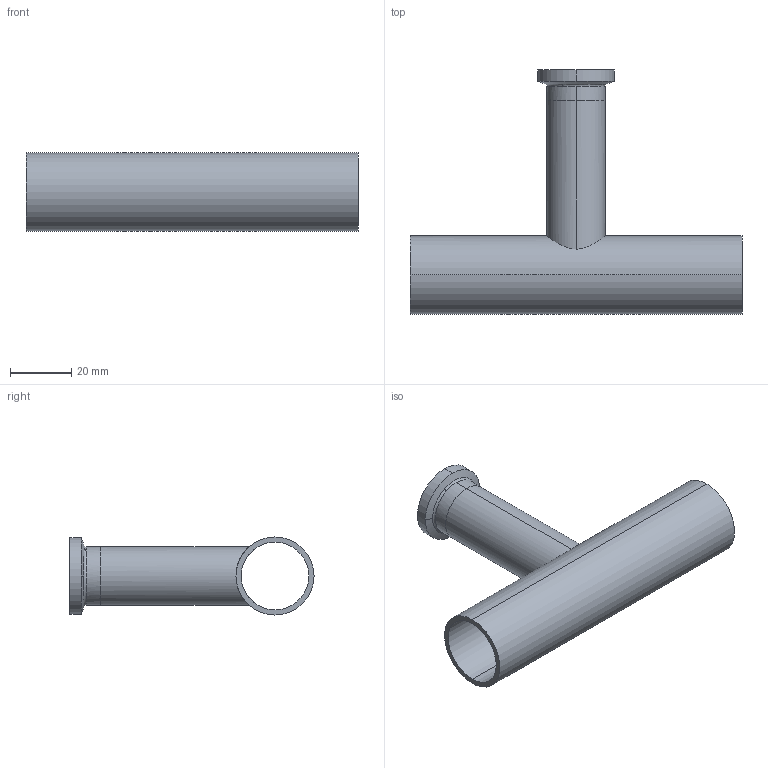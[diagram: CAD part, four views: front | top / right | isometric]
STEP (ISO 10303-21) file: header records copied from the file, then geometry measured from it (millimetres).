
FILE_DESCRIPTION (( 'STEP AP214' ), '1' );
FILE_NAME ('TE7RWWC6L1.0x.75-...STEP', '2016-05-23T07:51:48', ( 'eran' ), ( '' ), 'SwSTEP 2.0', 'SolidWorks 2016', '' );
FILE_SCHEMA (( 'AUTOMOTIVE_DESIGN' ));
Length unit declared in the file: millimetre
Products named in the file (1): TE7RWWC6L1.0x.75-..
Bounding box: 108 x 79.4 x 25.4 mm (x, y, z)
Volume: 18557 mm3; surface area: 22812.3 mm2
Topology: 2 solids, 2 shells, 34 faces, 84 edges, 56 vertices
Faces by surface type: cylinder 16, bspline 8, plane 6, cone 4
Entity records: 1367 total; most frequent: CARTESIAN_POINT 495, DIRECTION 186, ORIENTED_EDGE 168, EDGE_CURVE 84, AXIS2_PLACEMENT_3D 83, CIRCLE 56, VERTEX_POINT 56, EDGE_LOOP 42
